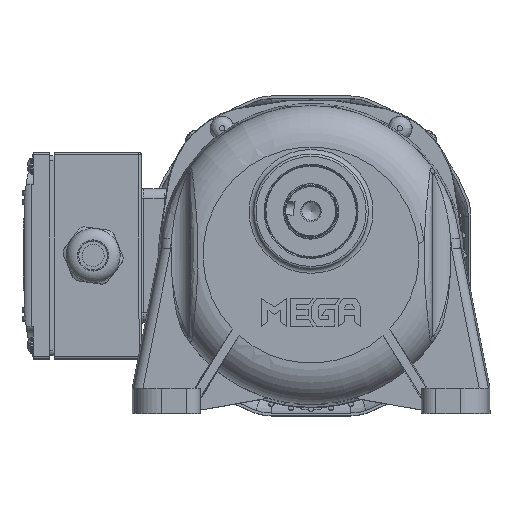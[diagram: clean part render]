
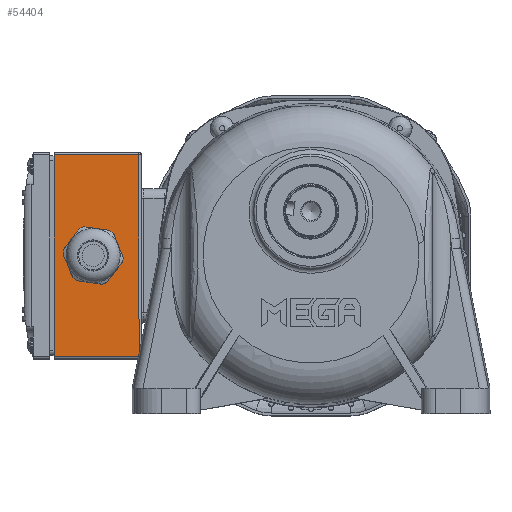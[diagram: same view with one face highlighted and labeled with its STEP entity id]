
A CAD part, top view. The second image highlights one B-rep face of the part: STEP entity #54404.
In plain terms, the highlighted planar face has unit normal (0, 0, 1).
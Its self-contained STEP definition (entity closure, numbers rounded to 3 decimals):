
#6050=FACE_BOUND('',#11352,.T.);
#6561=PLANE('',#58309);
#8025=FACE_OUTER_BOUND('',#11351,.T.);
#11351=EDGE_LOOP('',(#39777,#39778,#39779,#39780));
#11352=EDGE_LOOP('',(#39781,#39782,#39783,#39784,#39785,#39786,#39787,#39788,
#39789,#39790,#39791,#39792));
#14491=LINE('',#80349,#17570);
#14520=LINE('',#80469,#17599);
#14521=LINE('',#80471,#17600);
#14522=LINE('',#80473,#17601);
#14523=LINE('',#80475,#17602);
#14524=LINE('',#80477,#17603);
#15117=LINE('',#82589,#18196);
#15119=LINE('',#82604,#18198);
#15121=LINE('',#82610,#18200);
#15122=LINE('',#82611,#18201);
#17570=VECTOR('',#64429,10.);
#17599=VECTOR('',#64540,10.);
#17600=VECTOR('',#64543,10.);
#17601=VECTOR('',#64546,10.);
#17602=VECTOR('',#64549,10.);
#17603=VECTOR('',#64552,10.);
#18196=VECTOR('',#66253,10.);
#18198=VECTOR('',#66275,10.);
#18200=VECTOR('',#66281,10.);
#18201=VECTOR('',#66282,10.);
#20691=CIRCLE('',#57682,13.);
#20693=CIRCLE('',#57685,13.);
#20695=CIRCLE('',#57688,13.);
#20697=CIRCLE('',#57691,13.);
#20699=CIRCLE('',#57694,13.);
#20701=CIRCLE('',#57697,13.);
#23986=VERTEX_POINT('',#80295);
#23988=VERTEX_POINT('',#80299);
#23990=VERTEX_POINT('',#80304);
#23992=VERTEX_POINT('',#80308);
#23994=VERTEX_POINT('',#80313);
#23996=VERTEX_POINT('',#80317);
#23998=VERTEX_POINT('',#80322);
#24000=VERTEX_POINT('',#80326);
#24002=VERTEX_POINT('',#80331);
#24004=VERTEX_POINT('',#80335);
#24006=VERTEX_POINT('',#80340);
#24008=VERTEX_POINT('',#80344);
#24642=VERTEX_POINT('',#82585);
#24643=VERTEX_POINT('',#82587);
#24646=VERTEX_POINT('',#82603);
#24648=VERTEX_POINT('',#82609);
#29263=EDGE_CURVE('',#23986,#23988,#20691,.T.);
#29267=EDGE_CURVE('',#23990,#23992,#20693,.T.);
#29271=EDGE_CURVE('',#23994,#23996,#20695,.T.);
#29275=EDGE_CURVE('',#23998,#24000,#20697,.T.);
#29279=EDGE_CURVE('',#24002,#24004,#20699,.T.);
#29283=EDGE_CURVE('',#24006,#24008,#20701,.T.);
#29285=EDGE_CURVE('',#24008,#23986,#14491,.T.);
#29341=EDGE_CURVE('',#23988,#23990,#14520,.T.);
#29342=EDGE_CURVE('',#24004,#24006,#14521,.T.);
#29343=EDGE_CURVE('',#24000,#24002,#14522,.T.);
#29344=EDGE_CURVE('',#23996,#23998,#14523,.T.);
#29345=EDGE_CURVE('',#23992,#23994,#14524,.T.);
#30232=EDGE_CURVE('',#24643,#24642,#15117,.T.);
#30239=EDGE_CURVE('',#24642,#24646,#15119,.T.);
#30242=EDGE_CURVE('',#24648,#24643,#15121,.T.);
#30243=EDGE_CURVE('',#24648,#24646,#15122,.T.);
#39777=ORIENTED_EDGE('',*,*,#30232,.F.);
#39778=ORIENTED_EDGE('',*,*,#30242,.F.);
#39779=ORIENTED_EDGE('',*,*,#30243,.T.);
#39780=ORIENTED_EDGE('',*,*,#30239,.F.);
#39781=ORIENTED_EDGE('',*,*,#29283,.T.);
#39782=ORIENTED_EDGE('',*,*,#29285,.T.);
#39783=ORIENTED_EDGE('',*,*,#29263,.T.);
#39784=ORIENTED_EDGE('',*,*,#29341,.T.);
#39785=ORIENTED_EDGE('',*,*,#29267,.T.);
#39786=ORIENTED_EDGE('',*,*,#29345,.T.);
#39787=ORIENTED_EDGE('',*,*,#29271,.T.);
#39788=ORIENTED_EDGE('',*,*,#29344,.T.);
#39789=ORIENTED_EDGE('',*,*,#29275,.T.);
#39790=ORIENTED_EDGE('',*,*,#29343,.T.);
#39791=ORIENTED_EDGE('',*,*,#29279,.T.);
#39792=ORIENTED_EDGE('',*,*,#29342,.T.);
#54404=ADVANCED_FACE('',(#8025,#6050),#6561,.T.);
#57682=AXIS2_PLACEMENT_3D('',#80301,#64384,#64385);
#57685=AXIS2_PLACEMENT_3D('',#80310,#64392,#64393);
#57688=AXIS2_PLACEMENT_3D('',#80319,#64400,#64401);
#57691=AXIS2_PLACEMENT_3D('',#80328,#64408,#64409);
#57694=AXIS2_PLACEMENT_3D('',#80337,#64416,#64417);
#57697=AXIS2_PLACEMENT_3D('',#80346,#64424,#64425);
#58309=AXIS2_PLACEMENT_3D('',#82608,#66279,#66280);
#64384=DIRECTION('center_axis',(0.,0.,
-1.));
#64385=DIRECTION('ref_axis',(-0.378,0.926,0.));
#64392=DIRECTION('center_axis',(0.,0.,
-1.));
#64393=DIRECTION('ref_axis',(-0.378,0.926,0.));
#64400=DIRECTION('center_axis',(0.,0.,
-1.));
#64401=DIRECTION('ref_axis',(-0.378,0.926,0.));
#64408=DIRECTION('center_axis',(0.,0.,
-1.));
#64409=DIRECTION('ref_axis',(-0.378,0.926,0.));
#64416=DIRECTION('center_axis',(0.,0.,
-1.));
#64417=DIRECTION('ref_axis',(-0.378,0.926,0.));
#64424=DIRECTION('center_axis',(0.,0.,
-1.));
#64425=DIRECTION('ref_axis',(-0.378,0.926,0.));
#64429=DIRECTION('',(0.378,-0.926,0.));
#64540=DIRECTION('',(-0.613,-0.79,0.));
#64543=DIRECTION('',(0.991,-0.135,0.));
#64546=DIRECTION('',(0.613,0.79,0.));
#64549=DIRECTION('',(-0.378,0.926,0.));
#64552=DIRECTION('',(-0.991,0.135,0.));
#66253=DIRECTION('',(0.,-1.,0.));
#66275=DIRECTION('',(-1.,0.,0.));
#66279=DIRECTION('center_axis',(0.,0.,
1.));
#66280=DIRECTION('ref_axis',(1.,0.,0.));
#66281=DIRECTION('',(1.,0.,0.));
#66282=DIRECTION('',(0.,-1.,0.));
#80295=CARTESIAN_POINT('',(-80.146,-21.409,-114.25));
#80299=CARTESIAN_POINT('',(-80.497,-23.976,-114.25));
#80301=CARTESIAN_POINT('Origin',(-93.137,-20.941,-114.25));
#80304=CARTESIAN_POINT('',(-87.047,-32.426,-114.25));
#80308=CARTESIAN_POINT('',(-89.445,-33.406,-114.25));
#80310=CARTESIAN_POINT('Origin',(-93.137,-20.941,-114.25));
#80313=CARTESIAN_POINT('',(-100.039,-31.958,-114.25));
#80317=CARTESIAN_POINT('',(-102.086,-30.37,-114.25));
#80319=CARTESIAN_POINT('Origin',(-93.137,-20.941,-114.25));
#80322=CARTESIAN_POINT('',(-106.129,-20.473,-114.25));
#80326=CARTESIAN_POINT('',(-105.778,-17.906,-114.25));
#80328=CARTESIAN_POINT('Origin',(-93.137,-20.941,-114.25));
#80331=CARTESIAN_POINT('',(-99.227,-9.456,-114.25));
#80335=CARTESIAN_POINT('',(-96.829,-8.476,-114.25));
#80337=CARTESIAN_POINT('Origin',(-93.137,-20.941,-114.25));
#80340=CARTESIAN_POINT('',(-86.236,-9.924,-114.25));
#80344=CARTESIAN_POINT('',(-84.188,-11.511,-114.25));
#80346=CARTESIAN_POINT('Origin',(-93.137,-20.941,-114.25));
#80349=CARTESIAN_POINT('',(-87.248,-4.019,-114.25));
#80469=CARTESIAN_POINT('',(-71.031,-11.766,-114.25));
#80471=CARTESIAN_POINT('',(-80.855,-10.659,-114.25));
#80473=CARTESIAN_POINT('',(-85.571,8.161,-114.25));
#80475=CARTESIAN_POINT('',(-111.776,-6.647,-114.25));
#80477=CARTESIAN_POINT('',(-90.843,-33.215,-114.25));
#82585=CARTESIAN_POINT('',(-73.137,-64.941,-114.25));
#82587=CARTESIAN_POINT('',(-73.137,23.059,-114.25));
#82589=CARTESIAN_POINT('',(-73.137,1.559,-114.25));
#82603=CARTESIAN_POINT('',(-110.137,-64.941,-114.25));
#82604=CARTESIAN_POINT('',(-72.137,-64.941,-114.25));
#82608=CARTESIAN_POINT('Origin',(-72.137,24.059,-114.25));
#82609=CARTESIAN_POINT('',(-110.137,23.059,-114.25));
#82610=CARTESIAN_POINT('',(-72.137,23.059,-114.25));
#82611=CARTESIAN_POINT('',(-110.137,-65.941,-114.25));
